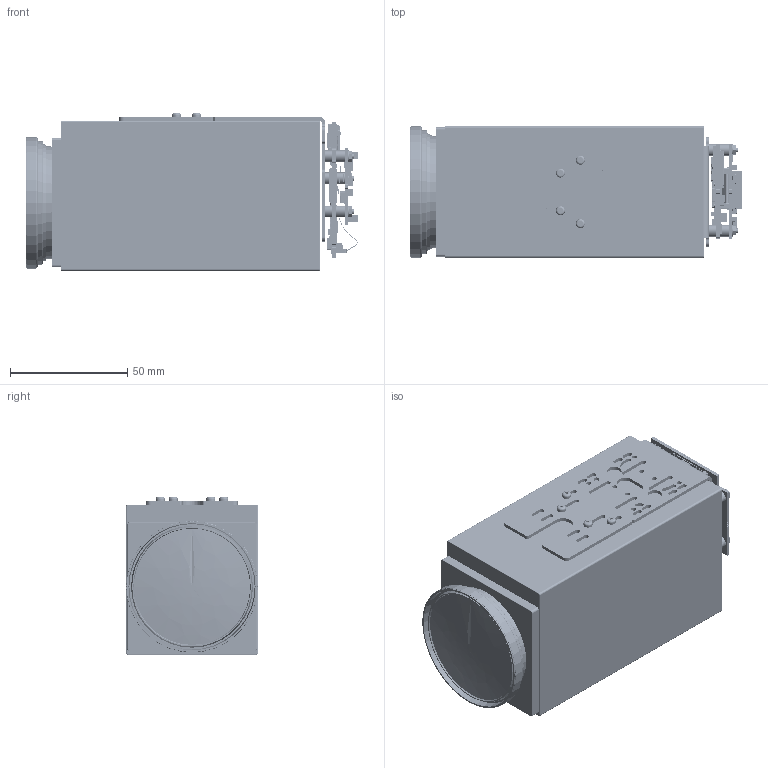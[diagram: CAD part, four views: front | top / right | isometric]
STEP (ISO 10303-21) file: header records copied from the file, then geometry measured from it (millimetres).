
FILE_DESCRIPTION( ( 'Unknown' ), '1' );
FILE_NAME( 'Q:/2003/Product3DCADModels/mm-ap29c01-0167-0101.stp', 'Unknown', ( 'Unknown' ), ( 'Unknown' ), 'PSStep 17.0.49', 'Unknown', ' ' );
FILE_SCHEMA( ( 'AUTOMOTIVE_DESIGN { 1 0 10303 214 1 1 1 1 }' ) );
Length unit declared in the file: millimetre
Products named in the file (574): Lead-6; Open_CASCADE_STEP_translator_6.8_1.2.1; Lead-5; Lead; Lead-3; Lead-1; Lead-2; Lead-7; Lead-4; Pin_Shape; Open_CASCADE_STEP_translator_6.8_17.4.1; Mid_Body; Open_CASCADE_STEP_translator_6.8_3.2.1; DEFAULT; DEFAULT-1; DEFAULT-2; FRAME_RUG0010A; Open CASCADE STEP translator 6.8 16.15.1.1.1; Open CASCADE STEP translator 6.8 16.15.1.1.2; Open CASCADE STEP translator 6.8 16.15.1.1.3; Open CASCADE STEP translator 6.8 16.15.1.1.4; Open CASCADE STEP translator 6.8 16.15.1.1.5; Open CASCADE STEP translator 6.8 16.15.1.1.6; Open CASCADE STEP translator 6.8 16.15.1.1.7; Open CASCADE STEP translator 6.8 16.15.1.1.8; Open CASCADE STEP translator 6.8 16.15.1.1.9; Open CASCADE STEP translator 6.8 16.15.1.1.10; Terminal; Open_CASCADE_STEP_translator_6.8_3.1.1; Open_CASCADE_STEP_translator_6.8_3.1.2; Body; Open_CASCADE_STEP_translator_6.8_17.2.1; 5993357248; body; User_Library-CAF-40P140X60-8N; User_Library-OSC_2520; User_Library-Oscillator2520-4pol-1_Cut004; User_Library-Oscillator2520-4pol-1_Zylinder; User_Library-Oscillator2520-4pol-1_Cut; ZF5S-12-01-T-WT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
Assembly tree (1457 placements, depth 7):
  Assem1
    G-806-048H  x4
    G-875-322T  x3
    G-977-016Z  x3
    G-161-906B  x3
    flexi-01
    EV9500L
    bracket-assy
      bracket-0378-02
      G-373-916V  x3
      G-513-075C  x3
    mm-ap29c04-0118-0201
      Board
        Open CASCADE STEP translator 6.8 8.1.1
          Open CASCADE STEP translator 6.8 8.1.1.1
      Z14
        6755408912
          Extruded
      Z10
        L3-838
      L4
        User_Library-CM0805
      R3
        6478572848
          Extruded
      C1
        6682828912  x2
          Extruded
        6682828672
          Extruded
      C2
        6682828912  x2
          Extruded
        6682828672
          Extruded
      C3
        6682828912  x2
          Extruded
        6682828672
          Extruded
      C4
        6682828912  x2
          Extruded
        6682828672
          Extruded
      J2
        BM09B-SRSS-TB
      J3
        BM04B-SRSS-TB
      L1
        SM453229-231N7Y
        SM453229-231N7Y
        SM453229-231N7Y
        SM453229-231N7Y
        SM453229-231N7Y
        SM453229-231N7Y
        SM453229-231N7Y
        SM453229-231N7Y
        SM453229-231N7Y
        SM453229-231N7Y
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Bounding box: 141.31 x 56 x 67.14 mm (x, y, z)
Volume: 443415.4 mm3; surface area: 69377.1 mm2
Topology: 1067 solids, 1068 shells, 16668 faces, 42643 edges, 27990 vertices
Faces by surface type: plane 14135, cylinder 2186, sphere 112, cone 89, torus 77, revolution 56, bspline 13
Full cylindrical faces by diameter (mm): 0.041 x1, 0.14 x1, 0.15 x1, 0.2 x2, 0.25 x1, 0.4 x2, 0.5 x1, 0.519 x1, 1 x1, 1.1 x1, 1.12 x2, 1.2 x2, 1.3 x2, 1.567 x3, 1.729 x8, 2 x9, 2.2 x47, 3.88 x4, 5 x9, 6.2 x2, 56 x1
Entity records: 304950 total; most frequent: CARTESIAN_POINT 42443, DIRECTION 40271, ORIENTED_EDGE 38901, EDGE_CURVE 19451, LINE 16031, VECTOR 16031, VERTEX_POINT 12881, AXIS2_PLACEMENT_3D 12113
